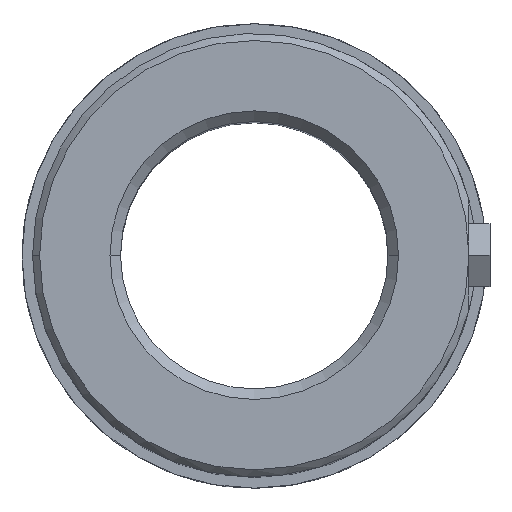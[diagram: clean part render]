
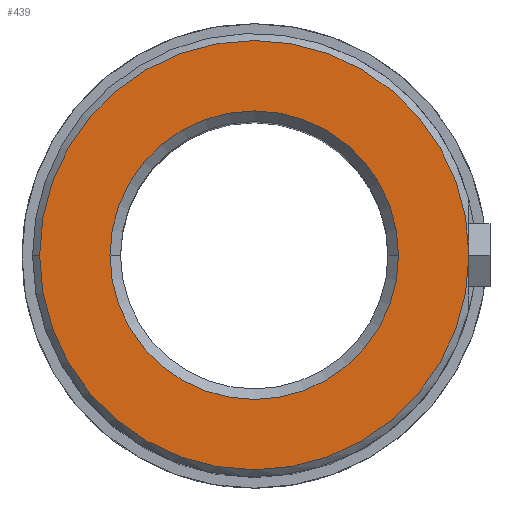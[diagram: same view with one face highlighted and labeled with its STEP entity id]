
A CAD part, top view. The second image highlights one B-rep face of the part: STEP entity #439.
In plain terms, the highlighted planar face has unit normal (0, 0, 1).
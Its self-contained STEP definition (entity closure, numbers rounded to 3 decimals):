
#321=CARTESIAN_POINT('Axis2P3D Location',(0.,0.,71.)) ;
#325=CARTESIAN_POINT('Vertex',(20.5,0.,71.)) ;
#327=CARTESIAN_POINT('Vertex',(-20.5,0.,71.)) ;
#383=CARTESIAN_POINT('Axis2P3D Location',(0.,0.,71.)) ;
#412=CARTESIAN_POINT('Axis2P3D Location',(20.5,0.,71.)) ;
#417=CARTESIAN_POINT('Axis2P3D Location',(0.,0.,71.)) ;
#421=CARTESIAN_POINT('Vertex',(30.5,0.,71.)) ;
#423=CARTESIAN_POINT('Vertex',(-30.5,0.,71.)) ;
#426=CARTESIAN_POINT('Axis2P3D Location',(0.,0.,71.)) ;
#322=DIRECTION('Axis2P3D Direction',(0.,-0.,1.)) ;
#384=DIRECTION('Axis2P3D Direction',(0.,-0.,1.)) ;
#413=DIRECTION('Axis2P3D Direction',(0.,-0.,1.)) ;
#414=DIRECTION('Axis2P3D XDirection',(1.,0.,0.)) ;
#418=DIRECTION('Axis2P3D Direction',(0.,-0.,1.)) ;
#427=DIRECTION('Axis2P3D Direction',(0.,-0.,1.)) ;
#323=AXIS2_PLACEMENT_3D('Circle Axis2P3D',#321,#322,$) ;
#385=AXIS2_PLACEMENT_3D('Circle Axis2P3D',#383,#384,$) ;
#415=AXIS2_PLACEMENT_3D('Plane Axis2P3D',#412,#413,#414) ;
#419=AXIS2_PLACEMENT_3D('Circle Axis2P3D',#417,#418,$) ;
#428=AXIS2_PLACEMENT_3D('Circle Axis2P3D',#426,#427,$) ;
#432=ORIENTED_EDGE('',*,*,#425,.T.) ;
#433=ORIENTED_EDGE('',*,*,#430,.T.) ;
#436=ORIENTED_EDGE('',*,*,#387,.F.) ;
#437=ORIENTED_EDGE('',*,*,#329,.F.) ;
#438=FACE_BOUND('',#435,.T.) ;
#439=ADVANCED_FACE('742-38',(#434,#438),#416,.T.) ;
#324=CIRCLE('generated circle',#323,20.5) ;
#386=CIRCLE('generated circle',#385,20.5) ;
#420=CIRCLE('generated circle',#419,30.5) ;
#429=CIRCLE('generated circle',#428,30.5) ;
#329=EDGE_CURVE('',#326,#328,#324,.T.) ;
#387=EDGE_CURVE('',#328,#326,#386,.T.) ;
#425=EDGE_CURVE('',#422,#424,#420,.T.) ;
#430=EDGE_CURVE('',#424,#422,#429,.T.) ;
#431=EDGE_LOOP('',(#432,#433)) ;
#435=EDGE_LOOP('',(#436,#437)) ;
#434=FACE_OUTER_BOUND('',#431,.T.) ;
#416=PLANE('Plane',#415) ;
#326=VERTEX_POINT('',#325) ;
#328=VERTEX_POINT('',#327) ;
#422=VERTEX_POINT('',#421) ;
#424=VERTEX_POINT('',#423) ;
